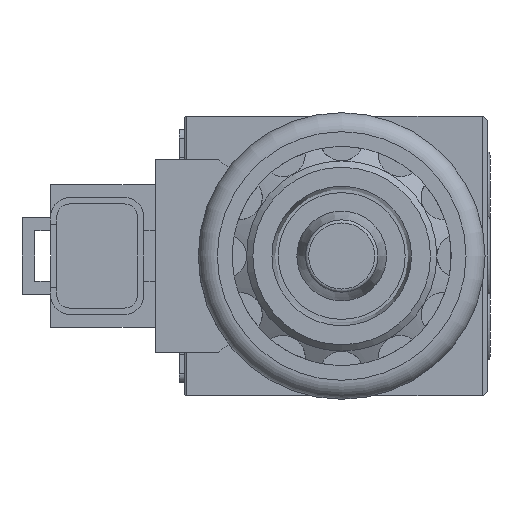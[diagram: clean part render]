
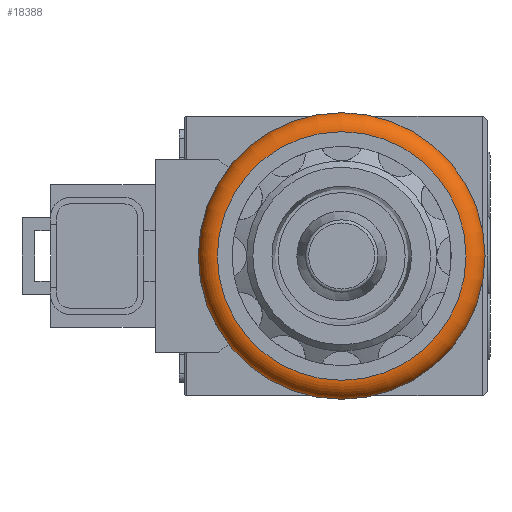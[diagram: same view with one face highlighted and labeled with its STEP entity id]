
A CAD part, left-side view. The second image highlights one B-rep face of the part: STEP entity #18388.
In plain terms, the highlighted toroidal (fillet/blend) face has major radius 19.6 mm and minor radius 3 mm.
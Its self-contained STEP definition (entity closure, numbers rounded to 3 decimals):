
#1147=CIRCLE('',#22436,22.6);
#1148=CIRCLE('',#22438,19.6);
#3709=EDGE_LOOP('',(#6521));
#3710=EDGE_LOOP('',(#6522));
#6521=ORIENTED_EDGE('',*,*,#11204,.F.);
#6522=ORIENTED_EDGE('',*,*,#11205,.F.);
#11204=EDGE_CURVE('',#20349,#20349,#1147,.T.);
#11205=EDGE_CURVE('',#20350,#20350,#1148,.T.);
#18388=ADVANCED_FACE('',(#19468,#19469),#19128,.T.);
#19128=TOROIDAL_SURFACE('',#22442,19.6,3.);
#19468=FACE_BOUND('',#3709,.T.);
#19469=FACE_BOUND('',#3710,.T.);
#20349=VERTEX_POINT('',#39813);
#20350=VERTEX_POINT('',#39816);
#22436=AXIS2_PLACEMENT_3D('',#39812,#25556,#25557);
#22438=AXIS2_PLACEMENT_3D('',#39815,#25560,#25561);
#22442=AXIS2_PLACEMENT_3D('',#39821,#25568,#25569);
#25556=DIRECTION('',(1.,0.,0.));
#25557=DIRECTION('',(0.,0.,-1.));
#25560=DIRECTION('',(-1.,0.,0.));
#25561=DIRECTION('',(0.,0.,-1.));
#25568=DIRECTION('',(1.,0.,0.));
#25569=DIRECTION('',(0.,0.,1.));
#39812=CARTESIAN_POINT('',(58.576,171.761,0.));
#39813=CARTESIAN_POINT('',(58.576,171.761,-22.6));
#39815=CARTESIAN_POINT('',(55.576,171.761,0.));
#39816=CARTESIAN_POINT('',(55.576,171.761,-19.6));
#39821=CARTESIAN_POINT('',(58.576,171.761,0.));
